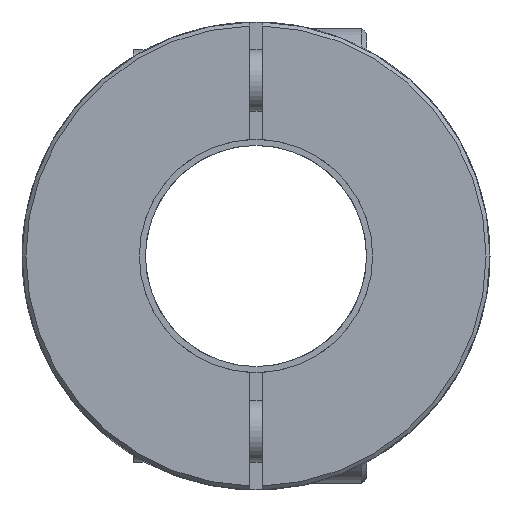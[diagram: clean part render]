
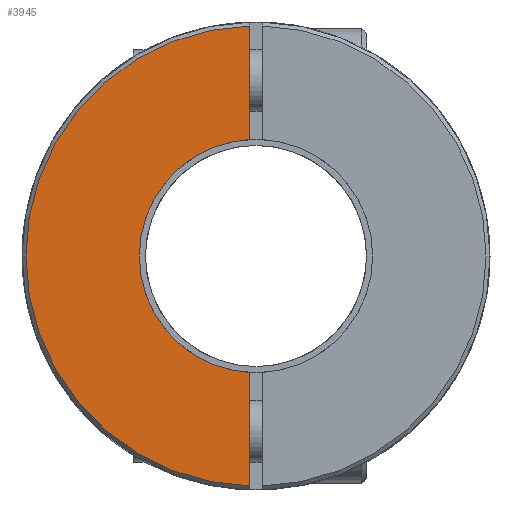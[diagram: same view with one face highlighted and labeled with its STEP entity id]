
A CAD part, front view. The second image highlights one B-rep face of the part: STEP entity #3945.
In plain terms, the highlighted planar face has unit normal (0, -1, 0).
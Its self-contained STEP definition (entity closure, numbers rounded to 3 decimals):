
#1=DIRECTION('',(0.,0.,-1.));
#2=VECTOR('',#1,9.237);
#3=CARTESIAN_POINT('',(-0.5,-33.35,18.723));
#4=LINE('',#3,#2);
#5=DIRECTION('',(0.,0.,-1.));
#6=VECTOR('',#5,9.237);
#7=CARTESIAN_POINT('',(-0.5,-33.35,-9.487));
#8=LINE('',#7,#6);
#72=CARTESIAN_POINT('',(0.,-33.35,0.));
#73=DIRECTION('',(0.,1.,0.));
#74=DIRECTION('',(-0.053,0.,-0.999));
#75=AXIS2_PLACEMENT_3D('',#72,#73,#74);
#2896=CARTESIAN_POINT('',(0.,-33.35,0.));
#2897=DIRECTION('',(0.,-1.,0.));
#2898=DIRECTION('',(-0.027,0.,1.));
#2899=AXIS2_PLACEMENT_3D('',#2896,#2897,#2898);
#3604=CARTESIAN_POINT('',(-0.5,-33.35,18.723));
#3605=CARTESIAN_POINT('',(-0.5,-33.35,9.487));
#3606=VERTEX_POINT('',#3604);
#3607=VERTEX_POINT('',#3605);
#3608=CARTESIAN_POINT('',(-0.5,-33.35,-9.487));
#3609=CARTESIAN_POINT('',(-0.5,-33.35,-18.723));
#3610=VERTEX_POINT('',#3608);
#3611=VERTEX_POINT('',#3609);
#3930=CARTESIAN_POINT('',(0.,-33.35,0.));
#3931=DIRECTION('',(0.,1.,0.));
#3932=DIRECTION('',(1.,0.,0.));
#3933=AXIS2_PLACEMENT_3D('',#3930,#3931,#3932);
#3934=PLANE('',#3933);
#3936=ORIENTED_EDGE('',*,*,#3935,.T.);
#3938=ORIENTED_EDGE('',*,*,#3937,.F.);
#3940=ORIENTED_EDGE('',*,*,#3939,.T.);
#3942=ORIENTED_EDGE('',*,*,#3941,.F.);
#3943=EDGE_LOOP('',(#3936,#3938,#3940,#3942));
#3944=FACE_OUTER_BOUND('',#3943,.F.);
#3945=ADVANCED_FACE('',(#3944),#3934,.F.);
#76=CIRCLE('',#75,9.5);
#2900=CIRCLE('',#2899,18.73);
#3935=EDGE_CURVE('',#3606,#3607,#4,.T.);
#3937=EDGE_CURVE('',#3610,#3607,#76,.T.);
#3939=EDGE_CURVE('',#3610,#3611,#8,.T.);
#3941=EDGE_CURVE('',#3606,#3611,#2900,.T.);
